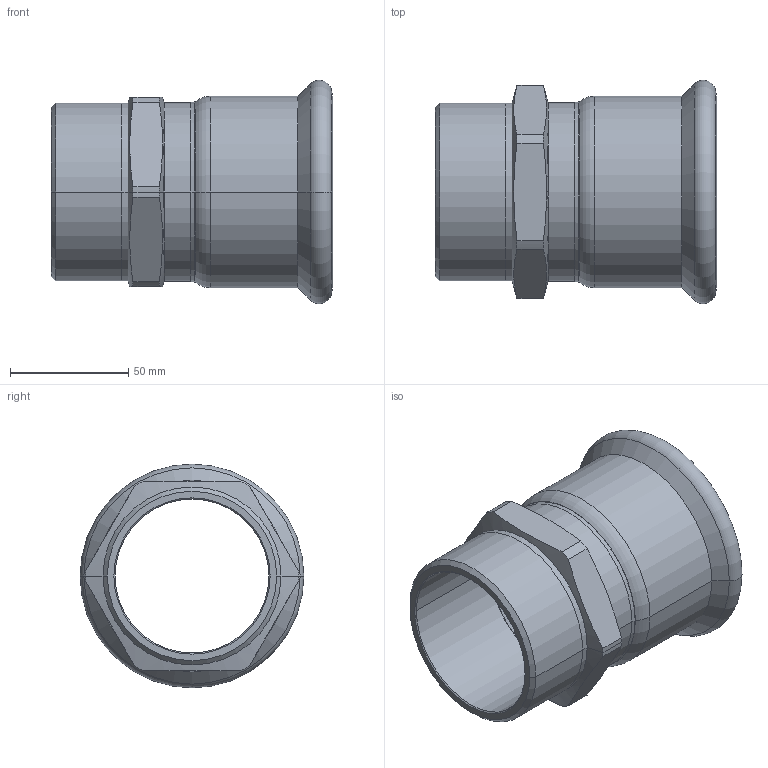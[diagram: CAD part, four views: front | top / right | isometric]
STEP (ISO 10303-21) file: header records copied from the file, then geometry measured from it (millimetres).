
FILE_DESCRIPTION(('CoCreate Modeling STEP Export'),'2;1');
FILE_NAME('C1405 76.1xR2 1-2.stp','2014-11-07T14:24:18',(''),(''),'CoCreate Modeling STEP processor for AP214 (Solid Model)','CoCreate Modeling 17.00A 17-Jun-2010 (C) Parametric Technology GmbH','');
FILE_SCHEMA(('AUTOMOTIVE_DESIGN { 1 0 10303 214 1 1 1 1 }'));
Length unit declared in the file: millimetre
Products named in the file (2): C1405_76.1xR5-2
Assembly tree (1 placements, depth 2):
  C1405_76.1xR5-2
    C1405_76.1xR5-2
Bounding box: 118.89 x 94.48 x 94.48 mm (x, y, z)
Volume: 121398.1 mm3; surface area: 62281.4 mm2
Topology: 1 solids, 1 shells, 80 faces, 176 edges, 98 vertices
Faces by surface type: cylinder 28, cone 26, torus 18, plane 8
Entity records: 2673 total; most frequent: CARTESIAN_POINT 1164, ORIENTED_EDGE 352, DIRECTION 248, EDGE_CURVE 176, VERTEX_POINT 98, AXIS2_PLACEMENT_3D 94, EDGE_LOOP 82, FACE_OUTER_BOUND 80
